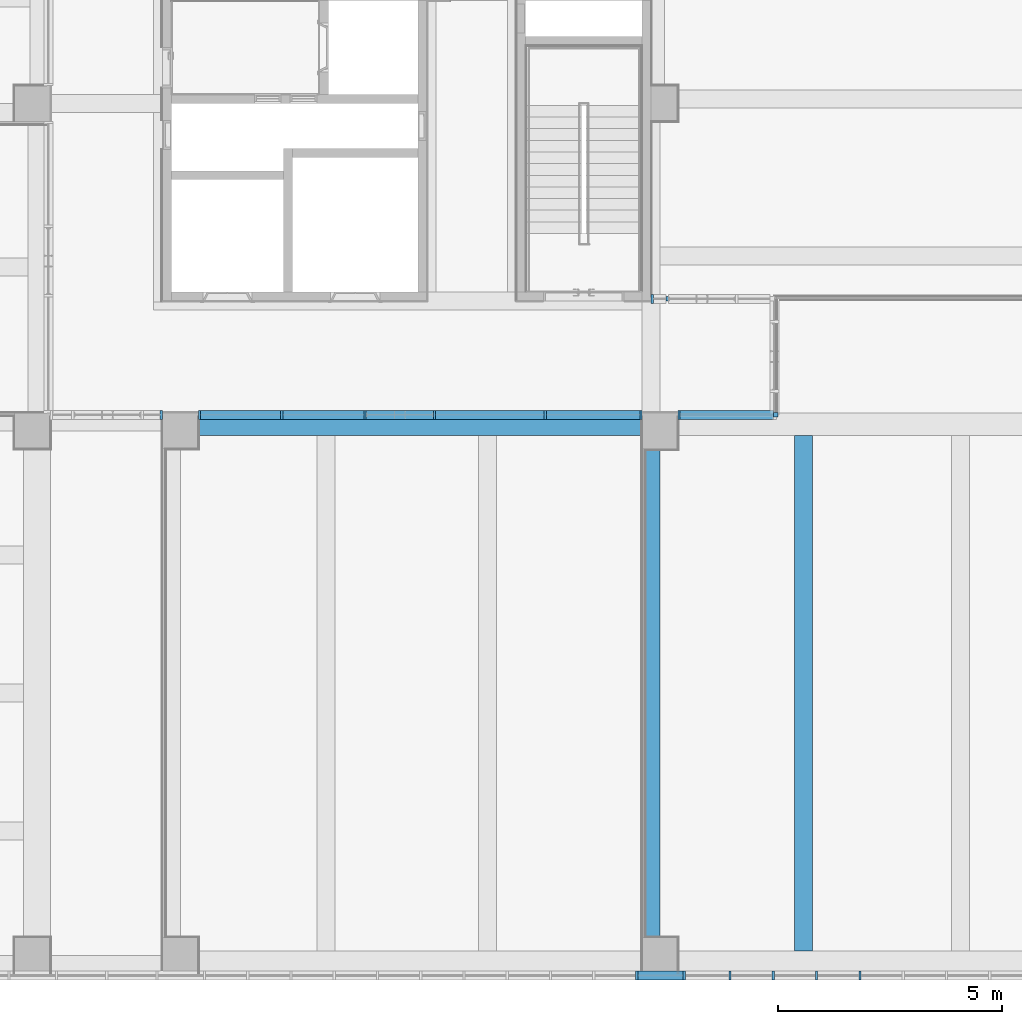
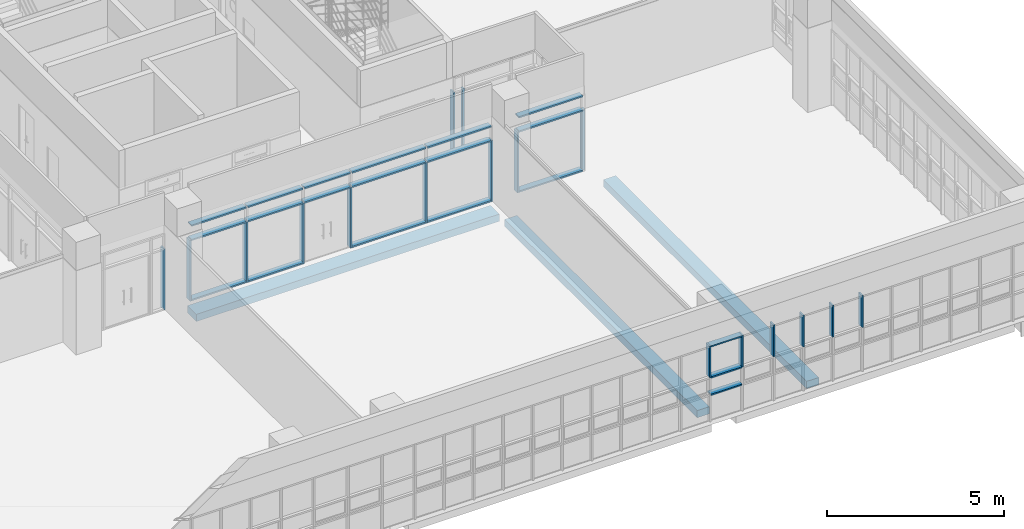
# One storey, part 4 of 81: 37 members, 3 beams, 5 elements without a shape of their own.
"""IFC2X3 building model written with IfcOpenShell, lengths in millimetres."""

from ifc_helpers import new_model, entity, si_unit, converted_unit, derived_unit, direction, frame, frame_2d, origin, origin_2d_with_axis, place, context, subcontext, project, spatial, rectangle, extrude, source, transform, mapped, material, type_object, type_shapes, element, aggregate, save


model = new_model("IFC2X3")

# Units and contexts
model_context = context("Model", 3, precision=0.01, world=origin(), true_north=direction((6.123031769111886e-17, 1.0)))
body_context = subcontext(model_context, "Body", "Model", "MODEL_VIEW")
ifc_project = project(units=[si_unit("LENGTHUNIT", "METRE", prefix="MILLI"), si_unit("AREAUNIT", "SQUARE_METRE"), si_unit("VOLUMEUNIT", "CUBIC_METRE"), converted_unit("PLANEANGLEUNIT", "DEGREE", entity("IfcRatioMeasure", 0.017453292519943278), si_unit("PLANEANGLEUNIT", "RADIAN"), dimensions=[0, 0, 0, 0, 0, 0, 0]), si_unit("MASSUNIT", "GRAM", prefix="KILO"), derived_unit("MASSDENSITYUNIT", [(si_unit("MASSUNIT", "GRAM", prefix="KILO"), 1), (si_unit("LENGTHUNIT", "METRE"), -3)]), derived_unit("MOMENTOFINERTIAUNIT", [(si_unit("LENGTHUNIT", "METRE"), 4)]), si_unit("TIMEUNIT", "SECOND"), si_unit("FREQUENCYUNIT", "HERTZ"), si_unit("THERMODYNAMICTEMPERATUREUNIT", "DEGREE_CELSIUS"), derived_unit("THERMALTRANSMITTANCEUNIT", [(si_unit("MASSUNIT", "GRAM", prefix="KILO"), 1), (si_unit("THERMODYNAMICTEMPERATUREUNIT", "KELVIN"), -1), (si_unit("TIMEUNIT", "SECOND"), -3)]), derived_unit("VOLUMETRICFLOWRATEUNIT", [(si_unit("LENGTHUNIT", "METRE"), 3), (si_unit("TIMEUNIT", "SECOND"), -1)]), derived_unit("MASSFLOWRATEUNIT", [(si_unit("MASSUNIT", "GRAM", prefix="KILO"), 1), (si_unit("TIMEUNIT", "SECOND"), -1)]), derived_unit("ROTATIONALFREQUENCYUNIT", [(si_unit("TIMEUNIT", "SECOND"), -1)]), si_unit("ELECTRICCURRENTUNIT", "AMPERE"), si_unit("ELECTRICVOLTAGEUNIT", "VOLT"), si_unit("POWERUNIT", "WATT"), si_unit("FORCEUNIT", "NEWTON", prefix="KILO"), si_unit("ILLUMINANCEUNIT", "LUX"), si_unit("LUMINOUSFLUXUNIT", "LUMEN"), si_unit("LUMINOUSINTENSITYUNIT", "CANDELA"), derived_unit("USERDEFINED", [(si_unit("MASSUNIT", "GRAM", prefix="KILO"), -1), (si_unit("LENGTHUNIT", "METRE"), -2), (si_unit("TIMEUNIT", "SECOND"), 3), (si_unit("LUMINOUSFLUXUNIT", "LUMEN"), 1)]), derived_unit("SOUNDPOWERUNIT", [(si_unit("MASSUNIT", "GRAM", prefix="KILO"), 1), (si_unit("LENGTHUNIT", "METRE"), 2), (si_unit("TIMEUNIT", "SECOND"), -3)]), derived_unit("SOUNDPRESSUREUNIT", [(si_unit("MASSUNIT", "GRAM", prefix="KILO"), 1), (si_unit("LENGTHUNIT", "METRE"), -1), (si_unit("TIMEUNIT", "SECOND"), -2)]), derived_unit("LINEARVELOCITYUNIT", [(si_unit("LENGTHUNIT", "METRE"), 1), (si_unit("TIMEUNIT", "SECOND"), -1)]), si_unit("PRESSUREUNIT", "PASCAL"), derived_unit("USERDEFINED", [(si_unit("LENGTHUNIT", "METRE"), -2), (si_unit("MASSUNIT", "GRAM", prefix="KILO"), 1), (si_unit("TIMEUNIT", "SECOND"), -2)]), derived_unit("LINEARFORCEUNIT", [(si_unit("MASSUNIT", "GRAM", prefix="KILO"), 1), (si_unit("LENGTHUNIT", "METRE"), 1), (si_unit("TIMEUNIT", "SECOND"), -2), (si_unit("LENGTHUNIT", "METRE"), -1)]), derived_unit("PLANARFORCEUNIT", [(si_unit("MASSUNIT", "GRAM", prefix="KILO"), 1), (si_unit("LENGTHUNIT", "METRE"), 1), (si_unit("TIMEUNIT", "SECOND"), -2), (si_unit("LENGTHUNIT", "METRE"), -2)])], contexts=[model_context])

# Site, building, storey
site_placement = place(None, frame((-14167.972527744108, -657.2125860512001, 0.0)))
site = spatial("IfcSite", under=ifc_project, at=site_placement, Name="Default", CompositionType="ELEMENT")
building_placement = place(site_placement, origin())
building = spatial("IfcBuilding", under=site, at=building_placement, Name="Sample Building", CompositionType="ELEMENT")
storey_placement = place(building_placement, frame((0.0, 0.0, 13400.0)))
storey = spatial("IfcBuildingStorey", under=building, at=storey_placement, Name="지상 4층", CompositionType="ELEMENT", Elevation=13400.00000000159)

# Curtain wall, member
curtain_wall_type = type_object("IfcCurtainWallType", Name="커튼월:CW112-스테인리스 스틸 커튼월", PredefinedType="NOTDEFINED")
curtain_wall_1_placement = place(storey_placement, frame((0.0, 0.0, -13400.0)))
curtain_wall_1 = element("IfcCurtainWall", 1, at=curtain_wall_1_placement, inside=storey, type_object=curtain_wall_type, Name="커튼월:CW112-스테인리스 스틸 커튼월", ObjectType="커튼월:CW112-스테인리스 스틸 커튼월")
ifc_material_1 = material(Name="<Unnamed>")
member_type_1 = type_object("IfcMemberType", Name="직사각형 멀리언:CW200-직사각형 멀리언 50x200mm", PredefinedType="MULLION", material=ifc_material_1)
shared_shape_1 = source(origin(), body_context, "Body", "SweptSolid", [
    extrude(rectangle(XDim=200.0, YDim=50.0, at=origin_2d_with_axis()), frame((-25.0, 0.0, -2100.0), z_axis=(0.0, 0.0, 1.0), x_axis=(0.0, -1.0, 0.0)), (0.0, 0.0, 1.0), 2100.0),
])
type_shapes(member_type_1, [shared_shape_1])
member_1_placement = place(curtain_wall_1_placement, frame((40967.963798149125, 15602.212586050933, 13480.0), z_axis=(0.0, 0.0, -1.0), x_axis=(-1.0, 0.0, 0.0)))
member_1 = element("IfcMember", 2, at=member_1_placement, type_object=member_type_1, material=ifc_material_1, Name="직사각형 멀리언:CW200-직사각형 멀리언 50x200mm", ObjectType="직사각형 멀리언:CW200-직사각형 멀리언 50x200mm", context=body_context, shape_type="MappedRepresentation", body=[
    mapped(shared_shape_1, transform((0.0, 0.0, 0.0), scale=1.0)),
])

# Curtain wall, members
curtain_wall_2_placement = place(storey_placement, frame((0.0, 0.0, -13400.0)))
curtain_wall_2 = element("IfcCurtainWall", 3, at=curtain_wall_2_placement, inside=storey, type_object=curtain_wall_type, Name="커튼월:CW112-스테인리스 스틸 커튼월", ObjectType="커튼월:CW112-스테인리스 스틸 커튼월")
member_type_2 = type_object("IfcMemberType", Name="직사각형 멀리언:CW200-직사각형 멀리언 50x200mm", PredefinedType="MULLION", material=ifc_material_1)
shared_shape_2 = source(origin(), body_context, "Body", "SweptSolid", [
    extrude(rectangle(XDim=200.0, YDim=50.0, at=origin_2d_with_axis()), frame((0.0, 0.0, -2100.0), z_axis=(0.0, 0.0, 1.0), x_axis=(0.0, -1.0, 0.0)), (0.0, 0.0, 1.0), 2100.0),
])
type_shapes(member_type_2, [shared_shape_2])
member_2_placement = place(curtain_wall_2_placement, frame((32727.97249113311, 13012.212617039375, 13480.0), z_axis=(0.0, 0.0, -1.0), x_axis=(1.0, 0.0, 0.0)))
member_2 = element("IfcMember", 4, at=member_2_placement, type_object=member_type_2, material=ifc_material_1, Name="직사각형 멀리언:CW200-직사각형 멀리언 50x200mm", ObjectType="직사각형 멀리언:CW200-직사각형 멀리언 50x200mm", context=body_context, shape_type="MappedRepresentation", body=[
    mapped(shared_shape_2, transform((0.0, 0.0, 0.0), scale=1.0)),
])
member_3_placement = place(curtain_wall_2_placement, frame((34587.972491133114, 13012.21261703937, 13480.0), z_axis=(0.0, 0.0, -1.0), x_axis=(1.0, 0.0, 0.0)))
member_3 = element("IfcMember", 5, at=member_3_placement, type_object=member_type_2, material=ifc_material_1, Name="직사각형 멀리언:CW200-직사각형 멀리언 50x200mm", ObjectType="직사각형 멀리언:CW200-직사각형 멀리언 50x200mm", context=body_context, shape_type="MappedRepresentation", body=[
    mapped(shared_shape_2, transform((0.0, 0.0, 0.0), scale=1.0)),
])
member_4_placement = place(curtain_wall_2_placement, frame((36137.97249113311, 13012.212617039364, 13480.0), z_axis=(0.0, 0.0, -1.0), x_axis=(1.0, 0.0, 0.0)))
member_4 = element("IfcMember", 6, at=member_4_placement, type_object=member_type_2, material=ifc_material_1, Name="직사각형 멀리언:CW200-직사각형 멀리언 50x200mm", ObjectType="직사각형 멀리언:CW200-직사각형 멀리언 50x200mm", context=body_context, shape_type="MappedRepresentation", body=[
    mapped(shared_shape_2, transform((0.0, 0.0, 0.0), scale=1.0)),
])
member_5_placement = place(curtain_wall_2_placement, frame((38607.972491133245, 13012.212617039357, 13480.0), z_axis=(0.0, 0.0, -1.0), x_axis=(1.0, 0.0, 0.0)))
member_5 = element("IfcMember", 7, at=member_5_placement, type_object=member_type_2, material=ifc_material_1, Name="직사각형 멀리언:CW200-직사각형 멀리언 50x200mm", ObjectType="직사각형 멀리언:CW200-직사각형 멀리언 50x200mm", context=body_context, shape_type="MappedRepresentation", body=[
    mapped(shared_shape_2, transform((0.0, 0.0, 0.0), scale=1.0)),
])
member_type_3 = type_object("IfcMemberType", Name="직사각형 멀리언:CW200-직사각형 멀리언 50x200mm", PredefinedType="MULLION", material=ifc_material_1)
shared_shape_3 = source(origin(), body_context, "Body", "SweptSolid", [
    extrude(rectangle(XDim=200.0, YDim=50.0, at=origin_2d_with_axis()), frame((-25.0, 0.0, -2100.0), z_axis=(0.0, 0.0, 1.0), x_axis=(0.0, -1.0, 0.0)), (0.0, 0.0, 1.0), 2099.9999999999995),
])
type_shapes(member_type_3, [shared_shape_3])
member_6_placement = place(curtain_wall_2_placement, frame((30867.97249113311, 13012.21261703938, 15580.0), z_axis=(0.0, 0.0, 1.0), x_axis=(-1.0, 0.0, 0.0)))
member_6 = element("IfcMember", 8, at=member_6_placement, type_object=member_type_3, material=ifc_material_1, Name="직사각형 멀리언:CW200-직사각형 멀리언 50x200mm", ObjectType="직사각형 멀리언:CW200-직사각형 멀리언 50x200mm", context=body_context, shape_type="MappedRepresentation", body=[
    mapped(shared_shape_3, transform((0.0, 0.0, 0.0), scale=1.0)),
])

# Curtain wall, member
curtain_wall_3_placement = place(storey_placement, frame((0.0, 0.0, -13400.0)))
curtain_wall_3 = element("IfcCurtainWall", 9, at=curtain_wall_3_placement, inside=storey, type_object=curtain_wall_type, Name="커튼월:CW112-스테인리스 스틸 커튼월", ObjectType="커튼월:CW112-스테인리스 스틸 커튼월")
member_7_placement = place(curtain_wall_3_placement, frame((41567.97249113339, 13012.212383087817, 15580.0), z_axis=(0.0, 0.0, 1.0), x_axis=(-1.0, 0.0, 0.0)))
member_7 = element("IfcMember", 10, at=member_7_placement, type_object=member_type_3, material=ifc_material_1, Name="직사각형 멀리언:CW200-직사각형 멀리언 50x200mm", ObjectType="직사각형 멀리언:CW200-직사각형 멀리언 50x200mm", context=body_context, shape_type="MappedRepresentation", body=[
    mapped(shared_shape_3, transform((0.0, 0.0, 0.0), scale=1.0)),
])

# Member
member_type_4 = type_object("IfcMemberType", Name="직사각형 멀리언:CW200-직사각형 멀리언 50x200mm", PredefinedType="MULLION", material=ifc_material_1)
shared_shape_4 = source(origin(), body_context, "Body", "SweptSolid", [
    extrude(rectangle(XDim=200.0, YDim=50.0, at=origin_2d_with_axis()), frame((-25.0, 0.0, -2100.0), z_axis=(0.0, 0.0, 1.0), x_axis=(0.0, -1.0, 0.0)), (0.0, 0.0, 1.0), 2100.0),
])
type_shapes(member_type_4, [shared_shape_4])
member_8_placement = place(curtain_wall_2_placement, frame((40767.9724911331, 13012.21261703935, 13480.0), z_axis=(0.0, 0.0, -1.0), x_axis=(1.0, 0.0, 0.0)))
member_8 = element("IfcMember", 11, at=member_8_placement, type_object=member_type_4, material=ifc_material_1, Name="직사각형 멀리언:CW200-직사각형 멀리언 50x200mm", ObjectType="직사각형 멀리언:CW200-직사각형 멀리언 50x200mm", context=body_context, shape_type="MappedRepresentation", body=[
    mapped(shared_shape_4, transform((0.0, 0.0, 0.0), scale=1.0)),
])

member_type_5 = type_object("IfcMemberType", Name="직사각형 멀리언:CW200-직사각형 멀리언 50x200mm", PredefinedType="MULLION", material=ifc_material_1)
shared_shape_5 = source(origin(), body_context, "Body", "SweptSolid", [
    extrude(rectangle(XDim=200.0, YDim=50.0, at=origin_2d_with_axis()), frame((-25.0, 0.0, -1500.0), z_axis=(0.0, 0.0, 1.0), x_axis=(0.0, -1.0, 0.0)), (0.0, 0.0, 1.0), 1500.0000000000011),
])
type_shapes(member_type_5, [shared_shape_5])
member_9_placement = place(curtain_wall_2_placement, frame((36112.97249113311, 13012.212617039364, 16100.0), z_axis=(1.0, 0.0, 0.0), x_axis=(0.0, 0.0, 1.0)))
member_9 = element("IfcMember", 12, at=member_9_placement, type_object=member_type_5, material=ifc_material_1, Name="직사각형 멀리언:CW200-직사각형 멀리언 50x200mm", ObjectType="직사각형 멀리언:CW200-직사각형 멀리언 50x200mm", context=body_context, shape_type="MappedRepresentation", body=[
    mapped(shared_shape_5, transform((0.0, 0.0, 0.0), scale=1.0)),
])

member_type_6 = type_object("IfcMemberType", Name="직사각형 멀리언:CW200-직사각형 멀리언 50x200mm", PredefinedType="MULLION", material=ifc_material_1)
shared_shape_6 = source(origin(), body_context, "Body", "SweptSolid", [
    extrude(rectangle(XDim=200.0, YDim=50.0, at=origin_2d_with_axis()), frame((0.0, 0.0, -1500.0), z_axis=(0.0, 0.0, 1.0), x_axis=(0.0, -1.0, 0.0)), (0.0, 0.0, 1.0), 1500.0000000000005),
])
type_shapes(member_type_6, [shared_shape_6])
member_10_placement = place(curtain_wall_2_placement, frame((36112.97249113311, 13012.212617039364, 15580.0), z_axis=(1.0, 0.0, 0.0), x_axis=(0.0, 0.0, 1.0)))
member_10 = element("IfcMember", 13, at=member_10_placement, type_object=member_type_6, material=ifc_material_1, Name="직사각형 멀리언:CW200-직사각형 멀리언 50x200mm", ObjectType="직사각형 멀리언:CW200-직사각형 멀리언 50x200mm", context=body_context, shape_type="MappedRepresentation", body=[
    mapped(shared_shape_6, transform((0.0, 0.0, 0.0), scale=1.0)),
])

member_type_7 = type_object("IfcMemberType", Name="직사각형 멀리언:CW200-직사각형 멀리언 100 x 100mm", PredefinedType="MULLION", material=ifc_material_1)
shared_shape_7 = source(origin(), body_context, "Body", "SweptSolid", [
    extrude(rectangle(XDim=100.00000000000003, YDim=100.0, at=origin_2d_with_axis()), frame((-50.0, 0.0, -2100.0), z_axis=(0.0, 0.0, 1.0), x_axis=(0.0, -1.0, 0.0)), (0.0, 0.0, 1.0), 2100.0),
])
type_shapes(member_type_7, [shared_shape_7])
member_11_placement = place(curtain_wall_3_placement, frame((43802.97249113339, 13012.21238308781, 13480.0), z_axis=(0.0, 0.0, -1.0), x_axis=(1.0, 0.0, 0.0)))
member_11 = element("IfcMember", 14, at=member_11_placement, type_object=member_type_7, material=ifc_material_1, Name="직사각형 멀리언:CW200-직사각형 멀리언 100 x 100mm", ObjectType="직사각형 멀리언:CW200-직사각형 멀리언 100 x 100mm", context=body_context, shape_type="MappedRepresentation", body=[
    mapped(shared_shape_7, transform((0.0, 0.0, 0.0), scale=1.0)),
])

# Curtain wall, member
curtain_wall_4_placement = place(storey_placement, frame((0.0, 0.0, -13400.0)))
curtain_wall_4 = element("IfcCurtainWall", 15, at=curtain_wall_4_placement, inside=storey, type_object=curtain_wall_type, Name="커튼월:CW112-스테인리스 스틸 커튼월", ObjectType="커튼월:CW112-스테인리스 스틸 커튼월")
member_type_8 = type_object("IfcMemberType", Name="직사각형 멀리언:CW200-직사각형 멀리언 50x200mm", PredefinedType="MULLION", material=ifc_material_1)
shared_shape_8 = source(origin(), body_context, "Body", "SweptSolid", [
    extrude(rectangle(XDim=200.0, YDim=50.0, at=origin_2d_with_axis()), frame((-25.0, 0.0, -2100.0), z_axis=(0.0, 0.0, 1.0), x_axis=(0.0, -1.0, 0.0)), (0.0, 0.0, 1.0), 2100.0),
])
type_shapes(member_type_8, [shared_shape_8])
member_12_placement = place(curtain_wall_4_placement, frame((30067.95511434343, 13012.212307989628, 15580.0)))
member_12 = element("IfcMember", 16, at=member_12_placement, type_object=member_type_8, material=ifc_material_1, Name="직사각형 멀리언:CW200-직사각형 멀리언 50x200mm", ObjectType="직사각형 멀리언:CW200-직사각형 멀리언 50x200mm", context=body_context, shape_type="MappedRepresentation", body=[
    mapped(shared_shape_8, transform((0.0, 0.0, 0.0), scale=1.0)),
])
aggregate(curtain_wall_4, [member_12])

# Member
member_type_9 = type_object("IfcMemberType", Name="직사각형 멀리언:CW200-직사각형 멀리언 50x200mm", PredefinedType="MULLION", material=ifc_material_1)
shared_shape_9 = source(origin(), body_context, "Body", "SweptSolid", [
    extrude(rectangle(XDim=200.0, YDim=50.0, at=origin_2d_with_axis()), frame((-25.0, 0.0, -2085.0), z_axis=(0.0, 0.0, 1.0), x_axis=(0.0, -1.0, 0.0)), (0.0, 0.0, 1.0), 2084.9999999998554),
])
type_shapes(member_type_9, [shared_shape_9])
member_13_placement = place(curtain_wall_2_placement, frame((40717.97249113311, 13012.21261703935, 16100.0), z_axis=(1.0, 0.0, 0.0), x_axis=(0.0, 0.0, 1.0)))
member_13 = element("IfcMember", 17, at=member_13_placement, type_object=member_type_9, material=ifc_material_1, Name="직사각형 멀리언:CW200-직사각형 멀리언 50x200mm", ObjectType="직사각형 멀리언:CW200-직사각형 멀리언 50x200mm", context=body_context, shape_type="MappedRepresentation", body=[
    mapped(shared_shape_9, transform((0.0, 0.0, 0.0), scale=1.0)),
])

member_14_placement = place(curtain_wall_3_placement, frame((43702.97249113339, 13012.21238308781, 16100.0), z_axis=(1.0, 0.0, 0.0), x_axis=(0.0, 0.0, 1.0)))
member_14 = element("IfcMember", 18, at=member_14_placement, type_object=member_type_9, material=ifc_material_1, Name="직사각형 멀리언:CW200-직사각형 멀리언 50x200mm", ObjectType="직사각형 멀리언:CW200-직사각형 멀리언 50x200mm", context=body_context, shape_type="MappedRepresentation", body=[
    mapped(shared_shape_9, transform((0.0, 0.0, 0.0), scale=1.0)),
])

member_type_10 = type_object("IfcMemberType", Name="직사각형 멀리언:CW200-직사각형 멀리언 50x200mm", PredefinedType="MULLION", material=ifc_material_1)
shared_shape_10 = source(origin(), body_context, "Body", "SweptSolid", [
    extrude(rectangle(XDim=200.0, YDim=50.0, at=origin_2d_with_axis()), frame((-25.0, 0.0, -1785.0), z_axis=(0.0, 0.0, 1.0), x_axis=(0.0, -1.0, 0.0)), (0.0, 0.0, 1.0), 1785.0000000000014),
])
type_shapes(member_type_10, [shared_shape_10])
member_15_placement = place(curtain_wall_2_placement, frame((30917.97249113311, 13012.21261703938, 13480.0), z_axis=(-1.0, 0.0, 0.0), x_axis=(0.0, 0.0, -1.0)))
member_15 = element("IfcMember", 19, at=member_15_placement, type_object=member_type_10, material=ifc_material_1, Name="직사각형 멀리언:CW200-직사각형 멀리언 50x200mm", ObjectType="직사각형 멀리언:CW200-직사각형 멀리언 50x200mm", context=body_context, shape_type="MappedRepresentation", body=[
    mapped(shared_shape_10, transform((0.0, 0.0, 0.0), scale=1.0)),
])

member_type_11 = type_object("IfcMemberType", Name="직사각형 멀리언:CW200-직사각형 멀리언 50x200mm", PredefinedType="MULLION", material=ifc_material_1)
shared_shape_11 = source(origin(), body_context, "Body", "SweptSolid", [
    extrude(rectangle(XDim=200.0, YDim=50.0, at=origin_2d_with_axis()), frame((0.0, 0.0, -1785.0), z_axis=(0.0, 0.0, 1.0), x_axis=(0.0, -1.0, 0.0)), (0.0, 0.0, 1.0), 1785.0000000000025),
])
type_shapes(member_type_11, [shared_shape_11])
member_16_placement = place(curtain_wall_2_placement, frame((32702.972491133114, 13012.212617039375, 15580.0), z_axis=(1.0, 0.0, 0.0), x_axis=(0.0, 0.0, 1.0)))
member_16 = element("IfcMember", 20, at=member_16_placement, type_object=member_type_11, material=ifc_material_1, Name="직사각형 멀리언:CW200-직사각형 멀리언 50x200mm", ObjectType="직사각형 멀리언:CW200-직사각형 멀리언 50x200mm", context=body_context, shape_type="MappedRepresentation", body=[
    mapped(shared_shape_11, transform((0.0, 0.0, 0.0), scale=1.0)),
])

member_type_12 = type_object("IfcMemberType", Name="직사각형 멀리언:CW200-직사각형 멀리언 50x200mm", PredefinedType="MULLION", material=ifc_material_1)
shared_shape_12 = source(origin(), body_context, "Body", "SweptSolid", [
    extrude(rectangle(XDim=200.0, YDim=50.0, at=origin_2d_with_axis()), frame((-25.0, 0.0, -1785.0), z_axis=(0.0, 0.0, 1.0), x_axis=(0.0, -1.0, 0.0)), (0.0, 0.0, 1.0), 1785.0000000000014),
])
type_shapes(member_type_12, [shared_shape_12])
member_17_placement = place(curtain_wall_2_placement, frame((32702.972491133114, 13012.212617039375, 16100.0), z_axis=(1.0, 0.0, 0.0), x_axis=(0.0, 0.0, 1.0)))
member_17 = element("IfcMember", 21, at=member_17_placement, type_object=member_type_12, material=ifc_material_1, Name="직사각형 멀리언:CW200-직사각형 멀리언 50x200mm", ObjectType="직사각형 멀리언:CW200-직사각형 멀리언 50x200mm", context=body_context, shape_type="MappedRepresentation", body=[
    mapped(shared_shape_12, transform((0.0, 0.0, 0.0), scale=1.0)),
])

member_type_13 = type_object("IfcMemberType", Name="직사각형 멀리언:CW200-직사각형 멀리언 50x200mm", PredefinedType="MULLION", material=ifc_material_1)
shared_shape_13 = source(origin(), body_context, "Body", "SweptSolid", [
    extrude(rectangle(XDim=200.0, YDim=50.0, at=origin_2d_with_axis()), frame((-25.0, 0.0, -1810.0), z_axis=(0.0, 0.0, 1.0), x_axis=(0.0, -1.0, 0.0)), (0.0, 0.0, 1.0), 1810.0000000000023),
])
type_shapes(member_type_13, [shared_shape_13])
member_18_placement = place(curtain_wall_2_placement, frame((32752.97249113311, 13012.212617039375, 13480.0), z_axis=(-1.0, 0.0, 0.0), x_axis=(0.0, 0.0, -1.0)))
member_18 = element("IfcMember", 22, at=member_18_placement, type_object=member_type_13, material=ifc_material_1, Name="직사각형 멀리언:CW200-직사각형 멀리언 50x200mm", ObjectType="직사각형 멀리언:CW200-직사각형 멀리언 50x200mm", context=body_context, shape_type="MappedRepresentation", body=[
    mapped(shared_shape_13, transform((0.0, 0.0, 0.0), scale=1.0)),
])

member_type_14 = type_object("IfcMemberType", Name="직사각형 멀리언:CW200-직사각형 멀리언 50x200mm", PredefinedType="MULLION", material=ifc_material_1)
shared_shape_14 = source(origin(), body_context, "Body", "SweptSolid", [
    extrude(rectangle(XDim=200.0, YDim=50.0, at=origin_2d_with_axis()), frame((0.0, 0.0, -1810.0), z_axis=(0.0, 0.0, 1.0), x_axis=(0.0, -1.0, 0.0)), (0.0, 0.0, 1.0), 1809.999999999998),
])
type_shapes(member_type_14, [shared_shape_14])
member_19_placement = place(curtain_wall_2_placement, frame((34562.972491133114, 13012.21261703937, 15580.0), z_axis=(1.0, 0.0, 0.0), x_axis=(0.0, 0.0, 1.0)))
member_19 = element("IfcMember", 23, at=member_19_placement, type_object=member_type_14, material=ifc_material_1, Name="직사각형 멀리언:CW200-직사각형 멀리언 50x200mm", ObjectType="직사각형 멀리언:CW200-직사각형 멀리언 50x200mm", context=body_context, shape_type="MappedRepresentation", body=[
    mapped(shared_shape_14, transform((0.0, 0.0, 0.0), scale=1.0)),
])

member_type_15 = type_object("IfcMemberType", Name="직사각형 멀리언:CW200-직사각형 멀리언 50x200mm", PredefinedType="MULLION", material=ifc_material_1)
shared_shape_15 = source(origin(), body_context, "Body", "SweptSolid", [
    extrude(rectangle(XDim=200.0, YDim=50.0, at=origin_2d_with_axis()), frame((-25.0, 0.0, -1810.0), z_axis=(0.0, 0.0, 1.0), x_axis=(0.0, -1.0, 0.0)), (0.0, 0.0, 1.0), 1809.999999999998),
])
type_shapes(member_type_15, [shared_shape_15])
member_20_placement = place(curtain_wall_2_placement, frame((34562.972491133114, 13012.21261703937, 16100.0), z_axis=(1.0, 0.0, 0.0), x_axis=(0.0, 0.0, 1.0)))
member_20 = element("IfcMember", 24, at=member_20_placement, type_object=member_type_15, material=ifc_material_1, Name="직사각형 멀리언:CW200-직사각형 멀리언 50x200mm", ObjectType="직사각형 멀리언:CW200-직사각형 멀리언 50x200mm", context=body_context, shape_type="MappedRepresentation", body=[
    mapped(shared_shape_15, transform((0.0, 0.0, 0.0), scale=1.0)),
])

member_type_16 = type_object("IfcMemberType", Name="직사각형 멀리언:CW200-직사각형 멀리언 50x200mm", PredefinedType="MULLION", material=ifc_material_1)
shared_shape_16 = source(origin(), body_context, "Body", "SweptSolid", [
    extrude(rectangle(XDim=200.0, YDim=50.0, at=origin_2d_with_axis()), frame((-25.0, 0.0, -2420.0), z_axis=(0.0, 0.0, 1.0), x_axis=(0.0, -1.0, 0.0)), (0.0, 0.0, 1.0), 2420.0000000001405),
])
type_shapes(member_type_16, [shared_shape_16])
member_21_placement = place(curtain_wall_2_placement, frame((36162.97249113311, 13012.212617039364, 13480.0), z_axis=(-1.0, 0.0, 0.0), x_axis=(0.0, 0.0, -1.0)))
member_21 = element("IfcMember", 25, at=member_21_placement, type_object=member_type_16, material=ifc_material_1, Name="직사각형 멀리언:CW200-직사각형 멀리언 50x200mm", ObjectType="직사각형 멀리언:CW200-직사각형 멀리언 50x200mm", context=body_context, shape_type="MappedRepresentation", body=[
    mapped(shared_shape_16, transform((0.0, 0.0, 0.0), scale=1.0)),
])

member_type_17 = type_object("IfcMemberType", Name="직사각형 멀리언:CW200-직사각형 멀리언 50x200mm", PredefinedType="MULLION", material=ifc_material_1)
shared_shape_17 = source(origin(), body_context, "Body", "SweptSolid", [
    extrude(rectangle(XDim=200.0, YDim=50.0, at=origin_2d_with_axis()), frame((0.0, 0.0, -2420.0), z_axis=(0.0, 0.0, 1.0), x_axis=(0.0, -1.0, 0.0)), (0.0, 0.0, 1.0), 2420.0000000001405),
])
type_shapes(member_type_17, [shared_shape_17])
member_22_placement = place(curtain_wall_2_placement, frame((38582.972491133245, 13012.212617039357, 15580.0), z_axis=(1.0, 0.0, 0.0), x_axis=(0.0, 0.0, 1.0)))
member_22 = element("IfcMember", 26, at=member_22_placement, type_object=member_type_17, material=ifc_material_1, Name="직사각형 멀리언:CW200-직사각형 멀리언 50x200mm", ObjectType="직사각형 멀리언:CW200-직사각형 멀리언 50x200mm", context=body_context, shape_type="MappedRepresentation", body=[
    mapped(shared_shape_17, transform((0.0, 0.0, 0.0), scale=1.0)),
])

member_type_18 = type_object("IfcMemberType", Name="직사각형 멀리언:CW200-직사각형 멀리언 50x200mm", PredefinedType="MULLION", material=ifc_material_1)
shared_shape_18 = source(origin(), body_context, "Body", "SweptSolid", [
    extrude(rectangle(XDim=200.0, YDim=50.0, at=origin_2d_with_axis()), frame((-25.0, 0.0, -2420.0), z_axis=(0.0, 0.0, 1.0), x_axis=(0.0, -1.0, 0.0)), (0.0, 0.0, 1.0), 2420.0000000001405),
])
type_shapes(member_type_18, [shared_shape_18])
member_23_placement = place(curtain_wall_2_placement, frame((38582.972491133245, 13012.212617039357, 16100.0), z_axis=(1.0, 0.0, 0.0), x_axis=(0.0, 0.0, 1.0)))
member_23 = element("IfcMember", 27, at=member_23_placement, type_object=member_type_18, material=ifc_material_1, Name="직사각형 멀리언:CW200-직사각형 멀리언 50x200mm", ObjectType="직사각형 멀리언:CW200-직사각형 멀리언 50x200mm", context=body_context, shape_type="MappedRepresentation", body=[
    mapped(shared_shape_18, transform((0.0, 0.0, 0.0), scale=1.0)),
])

member_type_19 = type_object("IfcMemberType", Name="직사각형 멀리언:CW200-직사각형 멀리언 50x200mm", PredefinedType="MULLION", material=ifc_material_1)
shared_shape_19 = source(origin(), body_context, "Body", "SweptSolid", [
    extrude(rectangle(XDim=200.0, YDim=50.0, at=origin_2d_with_axis()), frame((-25.0, 0.0, -2085.0), z_axis=(0.0, 0.0, 1.0), x_axis=(0.0, -1.0, 0.0)), (0.0, 0.0, 1.0), 2084.9999999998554),
])
type_shapes(member_type_19, [shared_shape_19])
member_24_placement = place(curtain_wall_2_placement, frame((38632.972491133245, 13012.212617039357, 13480.0), z_axis=(-1.0, 0.0, 0.0), x_axis=(0.0, 0.0, -1.0)))
member_24 = element("IfcMember", 28, at=member_24_placement, type_object=member_type_19, material=ifc_material_1, Name="직사각형 멀리언:CW200-직사각형 멀리언 50x200mm", ObjectType="직사각형 멀리언:CW200-직사각형 멀리언 50x200mm", context=body_context, shape_type="MappedRepresentation", body=[
    mapped(shared_shape_19, transform((0.0, 0.0, 0.0), scale=1.0)),
])

member_25_placement = place(curtain_wall_3_placement, frame((41617.97249113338, 13012.212383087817, 13480.0), z_axis=(-1.0, 0.0, 0.0), x_axis=(0.0, 0.0, -1.0)))
member_25 = element("IfcMember", 29, at=member_25_placement, type_object=member_type_19, material=ifc_material_1, Name="직사각형 멀리언:CW200-직사각형 멀리언 50x200mm", ObjectType="직사각형 멀리언:CW200-직사각형 멀리언 50x200mm", context=body_context, shape_type="MappedRepresentation", body=[
    mapped(shared_shape_19, transform((0.0, 0.0, 0.0), scale=1.0)),
])

member_type_20 = type_object("IfcMemberType", Name="직사각형 멀리언:CW200-직사각형 멀리언 50x200mm", PredefinedType="MULLION", material=ifc_material_1)
shared_shape_20 = source(origin(), body_context, "Body", "SweptSolid", [
    extrude(rectangle(XDim=200.0, YDim=50.0, at=origin_2d_with_axis()), frame((0.0, 0.0, -2085.0), z_axis=(0.0, 0.0, 1.0), x_axis=(0.0, -1.0, 0.0)), (0.0, 0.0, 1.0), 2084.9999999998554),
])
type_shapes(member_type_20, [shared_shape_20])
member_26_placement = place(curtain_wall_2_placement, frame((40717.97249113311, 13012.21261703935, 15580.0), z_axis=(1.0, 0.0, 0.0), x_axis=(0.0, 0.0, 1.0)))
member_26 = element("IfcMember", 30, at=member_26_placement, type_object=member_type_20, material=ifc_material_1, Name="직사각형 멀리언:CW200-직사각형 멀리언 50x200mm", ObjectType="직사각형 멀리언:CW200-직사각형 멀리언 50x200mm", context=body_context, shape_type="MappedRepresentation", body=[
    mapped(shared_shape_20, transform((0.0, 0.0, 0.0), scale=1.0)),
])

aggregate(curtain_wall_2, [member_13, member_15, member_8, member_6, member_16, member_17, member_18, member_19, member_2, member_20, member_10, member_3, member_9, member_21, member_22, member_4, member_23, member_24, member_26, member_5])

member_27_placement = place(curtain_wall_3_placement, frame((43702.97249113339, 13012.21238308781, 15580.0), z_axis=(1.0, 0.0, 0.0), x_axis=(0.0, 0.0, 1.0)))
member_27 = element("IfcMember", 31, at=member_27_placement, type_object=member_type_20, material=ifc_material_1, Name="직사각형 멀리언:CW200-직사각형 멀리언 50x200mm", ObjectType="직사각형 멀리언:CW200-직사각형 멀리언 50x200mm", context=body_context, shape_type="MappedRepresentation", body=[
    mapped(shared_shape_20, transform((0.0, 0.0, 0.0), scale=1.0)),
])

aggregate(curtain_wall_3, [member_14, member_25, member_11, member_7, member_27])

# Curtain wall, members
curtain_wall_5_placement = place(storey_placement, frame((0.0, 0.0, -13400.0)))
curtain_wall_5 = element("IfcCurtainWall", 32, at=curtain_wall_5_placement, inside=storey, type_object=curtain_wall_type, Name="커튼월:CW112-스테인리스 스틸 커튼월", ObjectType="커튼월:CW112-스테인리스 스틸 커튼월")
member_type_21 = type_object("IfcMemberType", Name="직사각형 멀리언:CW200-직사각형 멀리언 50x200mm", PredefinedType="MULLION", material=ifc_material_1)
shared_shape_21 = source(origin(), body_context, "Body", "SweptSolid", [
    extrude(rectangle(XDim=200.0, YDim=50.0, at=origin_2d_with_axis()), frame((0.0, 0.0, -1100.0), z_axis=(0.0, 0.0, 1.0), x_axis=(0.0, -1.0, 0.0)), (0.0, 0.0, 1.0), 1100.0000000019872),
])
type_shapes(member_type_21, [shared_shape_21])
member_28_placement = place(curtain_wall_5_placement, frame((41710.15607007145, 507.21229514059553, 15000.0), z_axis=(0.0, 0.0, -1.0), x_axis=(1.0, 0.0, 0.0)))
member_28 = element("IfcMember", 33, at=member_28_placement, type_object=member_type_21, material=ifc_material_1, Name="직사각형 멀리언:CW200-직사각형 멀리언 50x200mm", ObjectType="직사각형 멀리언:CW200-직사각형 멀리언 50x200mm", context=body_context, shape_type="MappedRepresentation", body=[
    mapped(shared_shape_21, transform((0.0, 0.0, 0.0), scale=1.0)),
])
member_29_placement = place(curtain_wall_5_placement, frame((42730.156070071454, 507.2122951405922, 15000.0), z_axis=(0.0, 0.0, -1.0), x_axis=(1.0, 0.0, 0.0)))
member_29 = element("IfcMember", 34, at=member_29_placement, type_object=member_type_21, material=ifc_material_1, Name="직사각형 멀리언:CW200-직사각형 멀리언 50x200mm", ObjectType="직사각형 멀리언:CW200-직사각형 멀리언 50x200mm", context=body_context, shape_type="MappedRepresentation", body=[
    mapped(shared_shape_21, transform((0.0, 0.0, 0.0), scale=1.0)),
])
member_30_placement = place(curtain_wall_5_placement, frame((43695.15607007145, 507.2122951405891, 15000.0), z_axis=(0.0, 0.0, -1.0), x_axis=(1.0, 0.0, 0.0)))
member_30 = element("IfcMember", 35, at=member_30_placement, type_object=member_type_21, material=ifc_material_1, Name="직사각형 멀리언:CW200-직사각형 멀리언 50x200mm", ObjectType="직사각형 멀리언:CW200-직사각형 멀리언 50x200mm", context=body_context, shape_type="MappedRepresentation", body=[
    mapped(shared_shape_21, transform((0.0, 0.0, 0.0), scale=1.0)),
])
member_31_placement = place(curtain_wall_5_placement, frame((44660.15607007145, 507.212295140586, 15000.0), z_axis=(0.0, 0.0, -1.0), x_axis=(1.0, 0.0, 0.0)))
member_31 = element("IfcMember", 36, at=member_31_placement, type_object=member_type_21, material=ifc_material_1, Name="직사각형 멀리언:CW200-직사각형 멀리언 50x200mm", ObjectType="직사각형 멀리언:CW200-직사각형 멀리언 50x200mm", context=body_context, shape_type="MappedRepresentation", body=[
    mapped(shared_shape_21, transform((0.0, 0.0, 0.0), scale=1.0)),
])
member_32_placement = place(curtain_wall_5_placement, frame((45625.15607007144, 507.21229514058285, 15000.0), z_axis=(0.0, 0.0, -1.0), x_axis=(1.0, 0.0, 0.0)))
member_32 = element("IfcMember", 37, at=member_32_placement, type_object=member_type_21, material=ifc_material_1, Name="직사각형 멀리언:CW200-직사각형 멀리언 50x200mm", ObjectType="직사각형 멀리언:CW200-직사각형 멀리언 50x200mm", context=body_context, shape_type="MappedRepresentation", body=[
    mapped(shared_shape_21, transform((0.0, 0.0, 0.0), scale=1.0)),
])
member_33_placement = place(curtain_wall_5_placement, frame((40650.15607007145, 507.2122951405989, 15000.0), z_axis=(0.0, 0.0, -1.0), x_axis=(1.0, 0.0, 0.0)))
member_33 = element("IfcMember", 38, at=member_33_placement, type_object=member_type_21, material=ifc_material_1, Name="직사각형 멀리언:CW200-직사각형 멀리언 50x200mm", ObjectType="직사각형 멀리언:CW200-직사각형 멀리언 50x200mm", context=body_context, shape_type="MappedRepresentation", body=[
    mapped(shared_shape_21, transform((0.0, 0.0, 0.0), scale=1.0)),
])
member_type_22 = type_object("IfcMemberType", Name="직사각형 멀리언:CW200-직사각형 멀리언 50x200mm", PredefinedType="MULLION", material=ifc_material_1)
shared_shape_22 = source(origin(), body_context, "Body", "SweptSolid", [
    extrude(rectangle(XDim=200.0, YDim=50.0, at=origin_2d_with_axis()), frame((0.0, 0.0, -1010.0), z_axis=(0.0, 0.0, 1.0), x_axis=(0.0, -1.0, 0.0)), (0.0, 0.0, 1.0), 1009.9999999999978),
])
type_shapes(member_type_22, [shared_shape_22])
member_34_placement = place(curtain_wall_5_placement, frame((41685.15607007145, 507.2122951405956, 14400.0), z_axis=(1.0, 0.0, 0.0), x_axis=(0.0, 0.0, 1.0)))
member_34 = element("IfcMember", 39, at=member_34_placement, type_object=member_type_22, material=ifc_material_1, Name="직사각형 멀리언:CW200-직사각형 멀리언 50x200mm", ObjectType="직사각형 멀리언:CW200-직사각형 멀리언 50x200mm", context=body_context, shape_type="MappedRepresentation", body=[
    mapped(shared_shape_22, transform((0.0, 0.0, 0.0), scale=1.0)),
])
member_35_placement = place(curtain_wall_5_placement, frame((41685.15607007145, 507.2122951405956, 15000.0), z_axis=(1.0, 0.0, 0.0), x_axis=(0.0, 0.0, 1.0)))
member_35 = element("IfcMember", 40, at=member_35_placement, type_object=member_type_22, material=ifc_material_1, Name="직사각형 멀리언:CW200-직사각형 멀리언 50x200mm", ObjectType="직사각형 멀리언:CW200-직사각형 멀리언 50x200mm", context=body_context, shape_type="MappedRepresentation", body=[
    mapped(shared_shape_22, transform((0.0, 0.0, 0.0), scale=1.0)),
])
member_type_23 = type_object("IfcMemberType", Name="직사각형 멀리언:CW200-직사각형 멀리언 50x200mm", PredefinedType="MULLION", material=ifc_material_1)
shared_shape_23 = source(origin(), body_context, "Body", "SweptSolid", [
    extrude(rectangle(XDim=200.0, YDim=50.0, at=origin_2d_with_axis()), frame((-25.0, 0.0, -1010.0), z_axis=(0.0, 0.0, 1.0), x_axis=(0.0, -1.0, 0.0)), (0.0, 0.0, 1.0), 1009.9999999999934),
])
type_shapes(member_type_23, [shared_shape_23])
member_36_placement = place(curtain_wall_5_placement, frame((41685.15607007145, 507.2122951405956, 16100.0), z_axis=(1.0, 0.0, 0.0), x_axis=(0.0, 0.0, 1.0)))
member_36 = element("IfcMember", 41, at=member_36_placement, type_object=member_type_23, material=ifc_material_1, Name="직사각형 멀리언:CW200-직사각형 멀리언 50x200mm", ObjectType="직사각형 멀리언:CW200-직사각형 멀리언 50x200mm", context=body_context, shape_type="MappedRepresentation", body=[
    mapped(shared_shape_23, transform((0.0, 0.0, 0.0), scale=1.0)),
])
aggregate(curtain_wall_5, [member_36, member_28, member_29, member_30, member_31, member_32, member_34, member_35, member_33])

# Member
member_type_24 = type_object("IfcMemberType", Name="직사각형 멀리언:CW200-직사각형 멀리언 60 x 100mm", PredefinedType="MULLION", material=ifc_material_1)
shared_shape_24 = source(origin(), body_context, "Body", "SweptSolid", [
    extrude(rectangle(XDim=100.0, YDim=60.0, at=origin_2d_with_axis()), frame((0.0, 0.0, -2100.0), z_axis=(0.0, 0.0, 1.0), x_axis=(0.0, -1.0, 0.0)), (0.0, 0.0, 1.0), 2100.0000000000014),
])
type_shapes(member_type_24, [shared_shape_24])
member_37_placement = place(curtain_wall_1_placement, frame((41327.972491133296, 15602.21258605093, 13480.0), z_axis=(0.0, 0.0, -1.0), x_axis=(-1.0, 0.0, 0.0)))
member_37 = element("IfcMember", 42, at=member_37_placement, type_object=member_type_24, material=ifc_material_1, Name="직사각형 멀리언:CW200-직사각형 멀리언 60 x 100mm", ObjectType="직사각형 멀리언:CW200-직사각형 멀리언 60 x 100mm", context=body_context, shape_type="MappedRepresentation", body=[
    mapped(shared_shape_24, transform((0.0, 0.0, 0.0), scale=1.0)),
])

aggregate(curtain_wall_1, [member_1, member_37])

# Beams
ifc_material_2 = material(Name="KBIMS-콘크리트")
beam_type_1 = type_object("IfcBeamType", Name="BM111-철근콘크리트구조 보:BM110-철근 콘크리트구조 보_500 x 400_2-10G9", PredefinedType="NOTDEFINED")
beam_1_placement = place(storey_placement, frame((30867.95511434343, 12807.212604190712, 0.0)))
element("IfcBeam", 43, at=beam_1_placement, inside=storey, type_object=beam_type_1, material=ifc_material_2, Name="BM111-철근콘크리트구조 보:BM110-철근 콘크리트구조 보_500 x 400_2-10G9", ObjectType="BM111-철근콘크리트구조 보:BM110-철근 콘크리트구조 보_500 x 400_2-10G9", context=body_context, shape_type="SweptSolid", body=[
    extrude(rectangle(XDim=250.00000000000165, YDim=500.0000000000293, at=frame_2d((-1.0800249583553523e-12, -1.949729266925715e-11), x_axis=(1.0, 0.0))), frame((0.0, 0.0, -275.0), z_axis=(1.0, 0.0, 0.0), x_axis=(0.0, 0.0, -1.0)), (0.0, 0.0, 1.0), 9900.000027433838),
])
beam_type_2 = type_object("IfcBeamType", Name="BM111-철근콘크리트구조 보:BM110-철근 콘크리트구조 보_400 x 400_2-10G6", PredefinedType="NOTDEFINED")
beam_2_placement = place(storey_placement, frame((40967.94644879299, 12607.212617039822, 0.0), z_axis=(0.0, 0.0, 1.0), x_axis=(0.0, -1.0, 0.0)))
element("IfcBeam", 44, at=beam_2_placement, inside=storey, type_object=beam_type_2, material=ifc_material_2, Name="BM111-철근콘크리트구조 보:BM110-철근 콘크리트구조 보_400 x 400_2-10G6", ObjectType="BM111-철근콘크리트구조 보:BM110-철근 콘크리트구조 보_400 x 400_2-10G6", context=body_context, shape_type="SweptSolid", body=[
    extrude(rectangle(XDim=250.00000000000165, YDim=400.0000000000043, at=frame_2d((-1.0800249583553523e-12, 4.334310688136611e-12), x_axis=(1.0, 0.0))), frame((350.0, 0.0, -275.0), z_axis=(1.0, 0.0, 0.0), x_axis=(0.0, 0.0, -1.0)), (0.0, 0.0, 1.0), 10900.000421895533),
])
beam_type_3 = type_object("IfcBeamType", Name="BM111-철근콘크리트구조 보:BM110-철근 콘크리트구조 보_400 x 400_2-10B2", PredefinedType="NOTDEFINED")
beam_3_placement = place(storey_placement, frame((44367.9464487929, 12807.212551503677, 0.0), z_axis=(0.0, 0.0, 1.0), x_axis=(0.0, -1.0, 0.0)))
element("IfcBeam", 45, at=beam_3_placement, inside=storey, type_object=beam_type_3, material=ifc_material_2, Name="BM111-철근콘크리트구조 보:BM110-철근 콘크리트구조 보_400 x 400_2-10B2", ObjectType="BM111-철근콘크리트구조 보:BM110-철근 콘크리트구조 보_400 x 400_2-10B2", context=body_context, shape_type="SweptSolid", body=[
    extrude(rectangle(XDim=250.00000000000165, YDim=400.0000000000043, at=frame_2d((-1.0800249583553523e-12, 4.334310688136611e-12), x_axis=(1.0, 0.0))), frame((250.0, 0.0, -275.0), z_axis=(1.0, 0.0, 0.0), x_axis=(0.0, 0.0, -1.0)), (0.0, 0.0, 1.0), 11500.0001605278),
])

save(model, "model.ifc")
